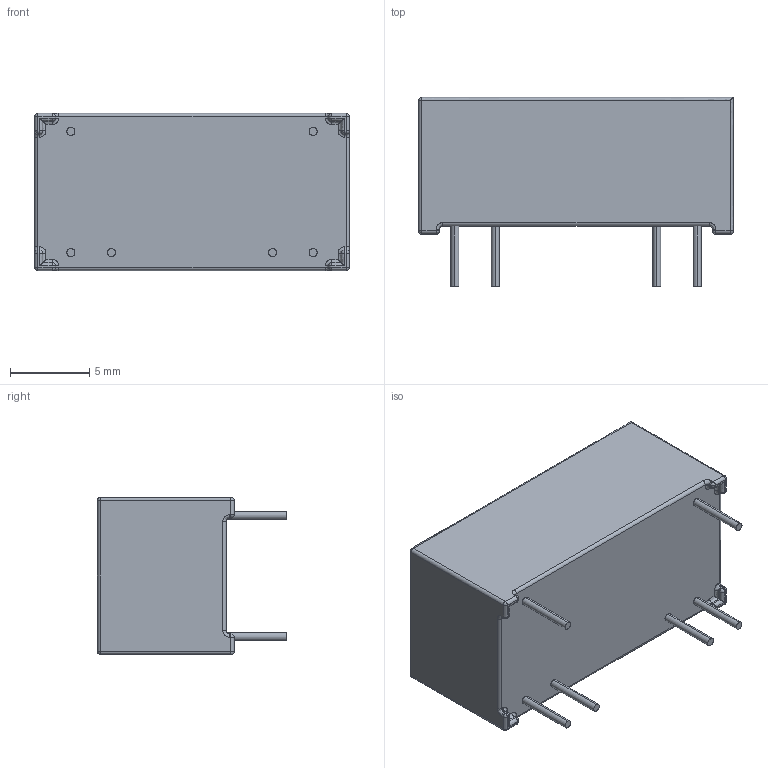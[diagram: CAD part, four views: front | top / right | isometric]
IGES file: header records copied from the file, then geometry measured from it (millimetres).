
Start section: SolidWorks IGES file using analytic representation for surfaces
Global section: file name: C:\Documents and Settings\alex.leming\Desktop\Replacement Models\98-1-C.IGS; native system: SolidWorks 2009; preprocessor: SolidWorks 2009; author: alex.leming; date: 101126.151833; units: millimetre
Bounding box: 19.8 x 11.9 x 9.9 mm (x, y, z)
Surface area: 905.2 mm2 (no closed solid volume)
Topology: 0 solids, 0 shells, 917 faces, 8593 edges, 8571 vertices
Faces by surface type: bspline 814, revolution 103
